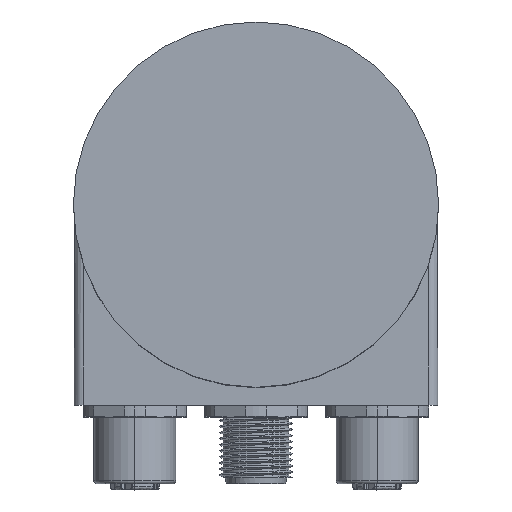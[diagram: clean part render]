
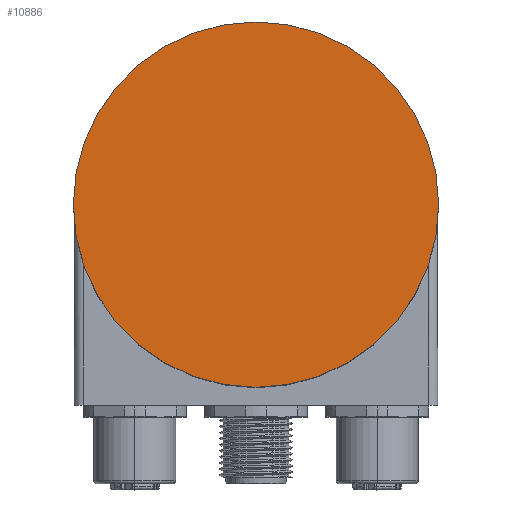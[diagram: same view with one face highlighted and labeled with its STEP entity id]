
A CAD part, top view. The second image highlights one B-rep face of the part: STEP entity #10886.
In plain terms, the highlighted planar face has unit normal (0, 0, 1).
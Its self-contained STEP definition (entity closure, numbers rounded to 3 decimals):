
#10071 = VERTEX_POINT ( 'NONE', #24382 ) ;
#10124 = VERTEX_POINT ( 'NONE', #24368 ) ;
#10212 = EDGE_CURVE ( 'NONE', #10124, #10071, #24396, .T. ) ;
#10778 = EDGE_CURVE ( 'NONE', #10071, #10124, #24728, .T. ) ;
#10856 = EDGE_LOOP ( 'NONE', ( #10943, #10890 ) ) ;
#10886 = ADVANCED_FACE ( 'NONE', ( #24773 ), #24767, .T. ) ;
#10890 = ORIENTED_EDGE ( 'NONE', *, *, #10212, .T. ) ;
#10943 = ORIENTED_EDGE ( 'NONE', *, *, #10778, .T. ) ;
#24368 = CARTESIAN_POINT ( 'NONE',  ( 0., -30.15, 41. ) ) ;
#24382 = CARTESIAN_POINT ( 'NONE',  ( 0., 30.15, 41. ) ) ;
#24392 = DIRECTION ( 'NONE',  ( 0., 0., 1. ) ) ;
#24394 = CARTESIAN_POINT ( 'NONE',  ( 0., 0., 41. ) ) ;
#24395 = AXIS2_PLACEMENT_3D ( 'NONE', #24394, #24392, #24458 ) ;
#24396 = CIRCLE ( 'NONE', #24395, 30.15 ) ;
#24458 = DIRECTION ( 'NONE',  ( 0., -1., 0. ) ) ;
#24659 = CARTESIAN_POINT ( 'NONE',  ( 0., 0., 41. ) ) ;
#24725 = DIRECTION ( 'NONE',  ( 0., -1., 0. ) ) ;
#24726 = DIRECTION ( 'NONE',  ( 0., 0., 1. ) ) ;
#24727 = AXIS2_PLACEMENT_3D ( 'NONE', #24659, #24726, #24725 ) ;
#24728 = CIRCLE ( 'NONE', #24727, 30.15 ) ;
#24737 = DIRECTION ( 'NONE',  ( 0., -1., 0. ) ) ;
#24738 = DIRECTION ( 'NONE',  ( 0., 0., 1. ) ) ;
#24739 = CARTESIAN_POINT ( 'NONE',  ( 0., 0., 41. ) ) ;
#24740 = AXIS2_PLACEMENT_3D ( 'NONE', #24739, #24738, #24737 ) ;
#24767 = PLANE ( 'NONE',  #24740 ) ;
#24773 = FACE_OUTER_BOUND ( 'NONE', #10856, .T. ) ;
